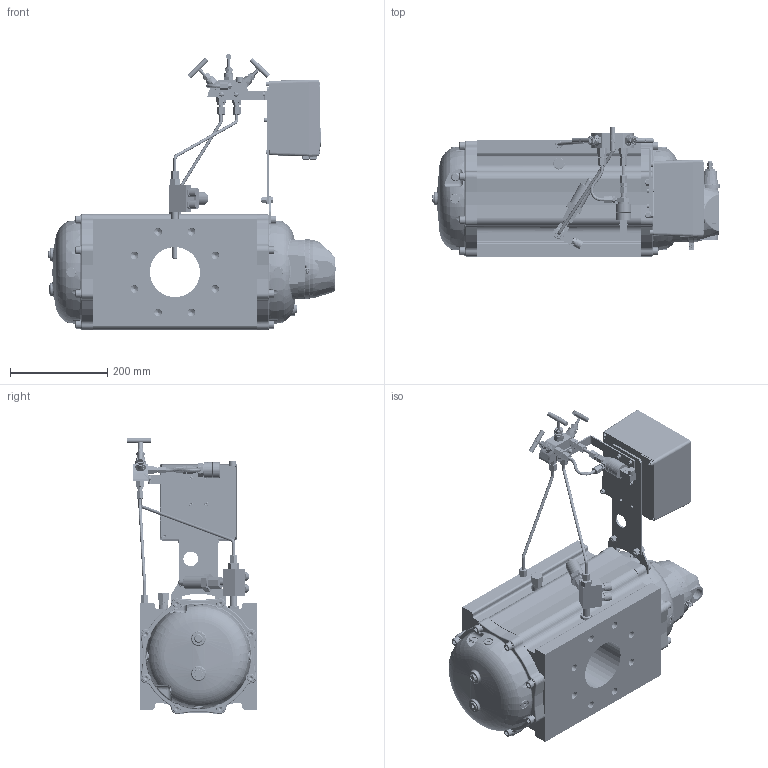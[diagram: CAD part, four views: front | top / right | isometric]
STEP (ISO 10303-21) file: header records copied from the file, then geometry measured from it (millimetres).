
FILE_DESCRIPTION(('STEP AP203'), '1');
FILE_NAME('楥-2230-G250', '', ('UNSPECIFIED'), ('UNSPECIFIED'), 'C3D Converter', 'C3D Toolkit', '');
FILE_SCHEMA(('CONFIG_CONTROL_DESIGN'));
Length unit declared in the file: millimetre
Bounding box: 591.5 x 267.75 x 568.35 mm (x, y, z)
Volume: 22755225.4 mm3; surface area: 1112952.5 mm2
Topology: 5 solids, 8 shells, 10459 faces, 29178 edges, 19514 vertices
Faces by surface type: plane 5241, extrusion 2990, cylinder 1581, cone 268, torus 221, bspline 143, sphere 15
Full cylindrical faces by diameter (mm): 1 x23, 1.5 x1, 2 x11, 2.2 x1, 2.5 x4, 3 x17, 3.5 x4, 4 x29, 4.4 x1, 5 x5, 5.4 x1, 5.5 x5, 6 x13, 6.381 x1, 6.5 x9, 7 x16, 7.4 x4, 7.5 x7, 8 x5, 8.466 x1, 8.5 x5, 9.4 x9, 9.526 x2, 9.65 x1, 10 x21, 11 x7, 11.002 x1, 12 x17, 13.134 x3, 13.835 x16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
Entity records: 492542 total; most frequent: CARTESIAN_POINT 156655, ORIENTED_EDGE 55720, DIRECTION 41765, EDGE_CURVE 28460, VERTEX_POINT 19432, VECTOR 19149, LINE 16159, EDGE_LOOP 12045
